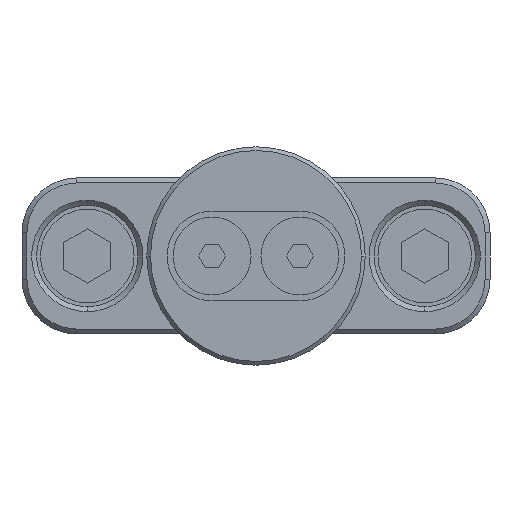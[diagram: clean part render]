
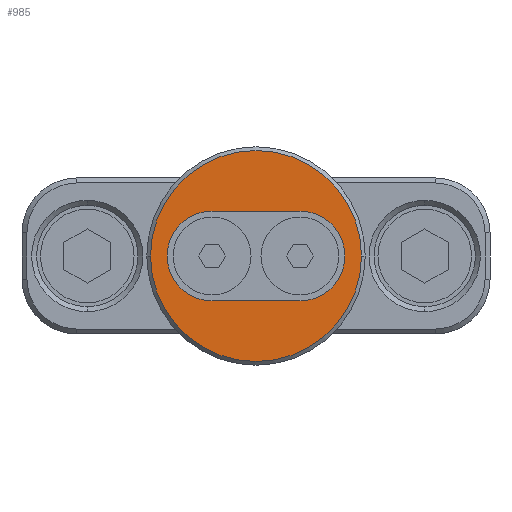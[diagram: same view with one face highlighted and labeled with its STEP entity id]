
A CAD part, front view. The second image highlights one B-rep face of the part: STEP entity #985.
In plain terms, the highlighted planar face has unit normal (0, -1, 0).
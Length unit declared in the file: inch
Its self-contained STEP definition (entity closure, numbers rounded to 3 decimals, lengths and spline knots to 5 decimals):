
#59 = AXIS2_PLACEMENT_3D ( 'NONE', #457, #3739, #2759 ) ;
#68 = CARTESIAN_POINT ( 'NONE',  ( -0.18, 0., -0.176 ) ) ;
#147 = LINE ( 'NONE', #1641, #3231 ) ;
#254 = AXIS2_PLACEMENT_3D ( 'NONE', #5954, #896, #4596 ) ;
#391 = CARTESIAN_POINT ( 'NONE',  ( -0.18, 0., -0.176 ) ) ;
#395 = DIRECTION ( 'NONE',  ( 0., 0., 1. ) ) ;
#457 = CARTESIAN_POINT ( 'NONE',  ( 0., 0., 0. ) ) ;
#480 = EDGE_LOOP ( 'NONE', ( #1249, #1392, #5958, #5109, #3143 ) ) ;
#567 = ORIENTED_EDGE ( 'NONE', *, *, #1611, .T. ) ;
#838 = CARTESIAN_POINT ( 'NONE',  ( 0., 0., -0.176 ) ) ;
#896 = DIRECTION ( 'NONE',  ( 0., 1., 0. ) ) ;
#924 = EDGE_CURVE ( 'NONE', #3076, #4862, #3200, .T. ) ;
#934 = PLANE ( 'NONE',  #254 ) ;
#985 = ADVANCED_FACE ( 'NONE', ( #5387, #1336 ), #934, .F. ) ;
#1186 = AXIS2_PLACEMENT_3D ( 'NONE', #838, #4138, #1297 ) ;
#1232 = CARTESIAN_POINT ( 'NONE',  ( 0.18, 0., 0.176 ) ) ;
#1249 = ORIENTED_EDGE ( 'NONE', *, *, #3680, .F. ) ;
#1297 = DIRECTION ( 'NONE',  ( 0., 0., 1. ) ) ;
#1336 = FACE_OUTER_BOUND ( 'NONE', #1932, .T. ) ;
#1355 = DIRECTION ( 'NONE',  ( 0., 0., -1. ) ) ;
#1392 = ORIENTED_EDGE ( 'NONE', *, *, #2460, .F. ) ;
#1458 = CARTESIAN_POINT ( 'NONE',  ( 0., 0., 0. ) ) ;
#1611 = EDGE_CURVE ( 'NONE', #4137, #5101, #4343, .T. ) ;
#1621 = CARTESIAN_POINT ( 'NONE',  ( -0.18, 0., 0.176 ) ) ;
#1632 = VERTEX_POINT ( 'NONE', #5177 ) ;
#1641 = CARTESIAN_POINT ( 'NONE',  ( 0.18, 0., -0.176 ) ) ;
#1873 = AXIS2_PLACEMENT_3D ( 'NONE', #5463, #5937, #1355 ) ;
#1932 = EDGE_LOOP ( 'NONE', ( #567, #3891 ) ) ;
#2277 = DIRECTION ( 'NONE',  ( 0., -1., 0. ) ) ;
#2343 = AXIS2_PLACEMENT_3D ( 'NONE', #3146, #2277, #395 ) ;
#2403 = EDGE_CURVE ( 'NONE', #4675, #1632, #2609, .T. ) ;
#2460 = EDGE_CURVE ( 'NONE', #1632, #3439, #2532, .T. ) ;
#2532 = CIRCLE ( 'NONE', #2343, 0.18 ) ;
#2609 = CIRCLE ( 'NONE', #1186, 0.18 ) ;
#2759 = DIRECTION ( 'NONE',  ( 0., 0., 1. ) ) ;
#2761 = AXIS2_PLACEMENT_3D ( 'NONE', #1458, #3801, #4715 ) ;
#3076 = VERTEX_POINT ( 'NONE', #1232 ) ;
#3143 = ORIENTED_EDGE ( 'NONE', *, *, #924, .F. ) ;
#3146 = CARTESIAN_POINT ( 'NONE',  ( 0., 0., -0.176 ) ) ;
#3200 = CIRCLE ( 'NONE', #1873, 0.18 ) ;
#3231 = VECTOR ( 'NONE', #4383, 39.37008 ) ;
#3259 = CARTESIAN_POINT ( 'NONE',  ( 0.18, 0., -0.176 ) ) ;
#3279 = DIRECTION ( 'NONE',  ( 0., 0., -1. ) ) ;
#3439 = VERTEX_POINT ( 'NONE', #3259 ) ;
#3680 = EDGE_CURVE ( 'NONE', #3439, #3076, #147, .T. ) ;
#3739 = DIRECTION ( 'NONE',  ( 0., -1., 0. ) ) ;
#3801 = DIRECTION ( 'NONE',  ( 0., -1., 0. ) ) ;
#3891 = ORIENTED_EDGE ( 'NONE', *, *, #5732, .T. ) ;
#3947 = EDGE_CURVE ( 'NONE', #4862, #4675, #5315, .T. ) ;
#4114 = CIRCLE ( 'NONE', #59, 0.4225 ) ;
#4137 = VERTEX_POINT ( 'NONE', #4402 ) ;
#4138 = DIRECTION ( 'NONE',  ( 0., -1., 0. ) ) ;
#4343 = CIRCLE ( 'NONE', #2761, 0.4225 ) ;
#4383 = DIRECTION ( 'NONE',  ( 0., 0., 1. ) ) ;
#4402 = CARTESIAN_POINT ( 'NONE',  ( 0., 0., 0.4225 ) ) ;
#4596 = DIRECTION ( 'NONE',  ( 0., 0., 1. ) ) ;
#4675 = VERTEX_POINT ( 'NONE', #391 ) ;
#4715 = DIRECTION ( 'NONE',  ( 0., 0., 1. ) ) ;
#4862 = VERTEX_POINT ( 'NONE', #1621 ) ;
#5101 = VERTEX_POINT ( 'NONE', #5545 ) ;
#5109 = ORIENTED_EDGE ( 'NONE', *, *, #3947, .F. ) ;
#5177 = CARTESIAN_POINT ( 'NONE',  ( 0., 0., -0.356 ) ) ;
#5315 = LINE ( 'NONE', #68, #5880 ) ;
#5387 = FACE_BOUND ( 'NONE', #480, .T. ) ;
#5463 = CARTESIAN_POINT ( 'NONE',  ( 0., 0., 0.176 ) ) ;
#5545 = CARTESIAN_POINT ( 'NONE',  ( 0., 0., -0.4225 ) ) ;
#5732 = EDGE_CURVE ( 'NONE', #5101, #4137, #4114, .T. ) ;
#5880 = VECTOR ( 'NONE', #3279, 39.37008 ) ;
#5937 = DIRECTION ( 'NONE',  ( 0., -1., 0. ) ) ;
#5954 = CARTESIAN_POINT ( 'NONE',  ( 0., 0., 0. ) ) ;
#5958 = ORIENTED_EDGE ( 'NONE', *, *, #2403, .F. ) ;
